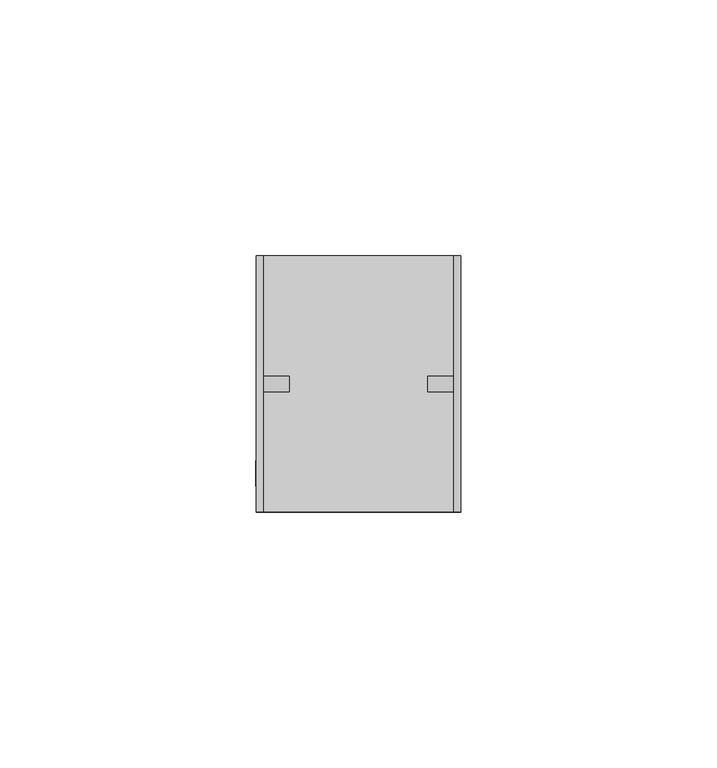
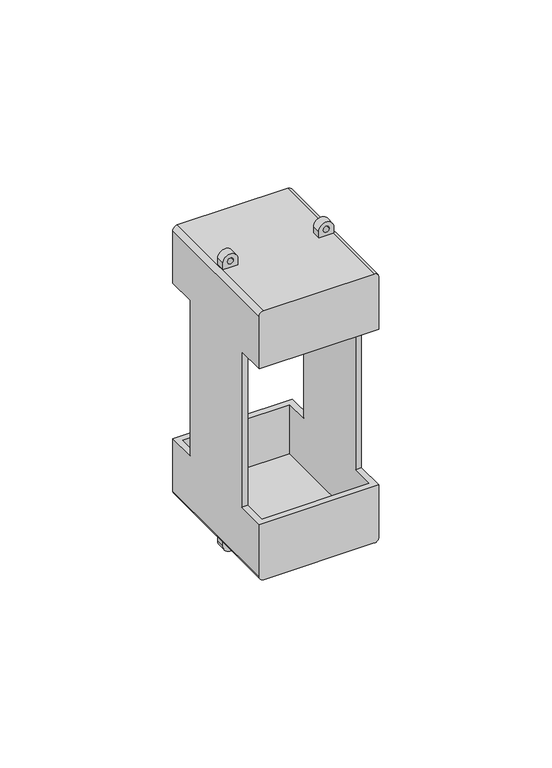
"""IFC4 building model written with IfcOpenShell, lengths in millimetres: proxy geometry, БОМ-1_2 : БОМ 1/2."""

from ifc_helpers import new_model, si_unit, point, frame, frame_2d, origin, place, context, project, spatial, polyline, circle_curve, trimmed, segment, composite_curve, outline, extrude, source, transform, mapped, element, save
from ifc_brep_helpers import plane_surface, cylinder_surface, advanced_brep


def electrical_equipment_e4f36392(model_context):
    return source(origin(), model_context, "Body", "SolidModel", [
        advanced_brep(
        [(18.5143257, 0.0, 95.0), (-18.4856743, 0.0, 95.0), (-19.9856743, 0.0, 93.5), (-19.9856743, 0.0, 75.0), (20.0143257, 0.0, 75.0), (20.0143257, 0.0, 93.5), (-19.9856743, 0.0, 1.5), (-18.4856743, 0.0, 0.0), (18.5143257, 0.0, 0.0), (20.0143257, 0.0, 1.5), (20.0143257, 0.0, 20.0), (-19.9856743, 0.0, 20.0), (18.5143257, 50.0, 95.0), (20.0143257, 50.0, 93.5), (20.0143257, 50.0, 75.0), (-19.9856743, 50.0, 75.0), (-19.9856743, 50.0, 93.5), (-18.4856743, 50.0, 95.0), (20.0143257, 50.0, 1.5), (18.5143257, 50.0, 0.0), (-18.4856743, 50.0, 0.0), (-19.9856743, 50.0, 1.5), (-19.9856743, 50.0, 20.0), (20.0143257, 50.0, 20.0), (18.0, 40.0, 20.0), (20.0, 40.0, 20.0), (-19.9856743, 40.0, 20.0), (-18.0, 40.0, 20.0), (-17.9856743, 48.0, 20.0), (18.0, 48.0, 20.0), (20.0, 10.0, 20.0), (18.0, 10.0, 20.0), (18.0, 2.0, 20.0), (-17.9856743, 2.0, 20.0), (-17.9856743, 10.0, 20.0), (-20.0, 10.0, 20.0), (-18.0, 40.0, 75.0), (-18.0, 48.0, 75.0), (-18.0, 48.0, 92.5250047), (-18.0, 2.0, 92.5250047), (-18.0, 2.0, 75.0), (-18.0, 10.0, 75.0), (-18.0, 2.0, 2.6097156), (-18.0, 48.0, 2.6097156), (-20.0, 40.0, 75.0), (20.0143257, 40.0, 75.0), (18.0, 40.0, 75.0), (18.0, 48.0, 75.0), (-20.0, 10.0, 75.0), (18.0, 2.0, 75.0), (18.0, 10.0, 75.0), (20.0, 10.0, 75.0), (18.0, 48.0, 2.6097156), (18.0, 2.0, 2.6097156), (18.0, 2.0, 92.5250047), (18.0, 48.0, 92.5250047)],
        [
            (0, 1),
            (1, 2, circle_curve(frame((-18.4856743, 0.0, 93.5), z_axis=(0.0, -1.0, 0.0), x_axis=(1.0, 0.0, 0.0)), 1.5)),
            (2, 3),
            (3, 4),
            (4, 5),
            (5, 0, circle_curve(frame((18.5143257, 0.0, 93.5), z_axis=(0.0, -1.0, 0.0), x_axis=(1.0, 0.0, 0.0)), 1.5)),
            (6, 7, circle_curve(frame((-18.4856743, 0.0, 1.5), z_axis=(0.0, -1.0, 0.0), x_axis=(1.0, 0.0, 0.0)), 1.5)),
            (7, 8),
            (8, 9, circle_curve(frame((18.5143257, 0.0, 1.5), z_axis=(0.0, -1.0, 0.0), x_axis=(1.0, 0.0, 0.0)), 1.5)),
            (9, 10),
            (10, 11),
            (11, 6),
            (12, 13, circle_curve(frame((18.5143257, 50.0, 93.5), z_axis=(0.0, 1.0, 0.0), x_axis=(1.0, 0.0, 0.0)), 1.5)),
            (13, 14),
            (14, 15),
            (15, 16),
            (16, 17, circle_curve(frame((-18.4856743, 50.0, 93.5), z_axis=(0.0, 1.0, 0.0), x_axis=(1.0, 0.0, 0.0)), 1.5)),
            (17, 12),
            (18, 19, circle_curve(frame((18.5143257, 50.0, 1.5), z_axis=(0.0, 1.0, 0.0), x_axis=(1.0, 0.0, 0.0)), 1.5)),
            (19, 20),
            (20, 21, circle_curve(frame((-18.4856743, 50.0, 1.5), z_axis=(0.0, 1.0, 0.0), x_axis=(1.0, 0.0, 0.0)), 1.5)),
            (21, 22),
            (22, 23),
            (23, 18),
            (24, 25),
            (25, 23),
            (22, 26),
            (26, 27),
            (27, 28),
            (28, 29),
            (29, 24),
            (30, 31),
            (31, 32),
            (32, 33),
            (33, 34),
            (34, 35),
            (35, 11),
            (10, 30),
            (27, 36),
            (36, 37),
            (37, 38),
            (38, 39),
            (39, 40),
            (40, 41),
            (41, 34),
            (33, 42),
            (42, 43),
            (43, 28),
            (36, 44),
            (44, 15),
            (14, 45),
            (45, 46),
            (46, 47),
            (47, 37),
            (48, 41),
            (40, 49),
            (49, 50),
            (50, 51),
            (51, 4),
            (3, 48),
            (46, 24),
            (29, 52),
            (52, 53),
            (53, 32),
            (31, 50),
            (49, 54),
            (54, 55),
            (55, 47),
            (0, 12),
            (17, 1),
            (16, 2),
            (44, 26),
            (21, 6),
            (35, 48),
            (20, 7),
            (19, 8),
            (18, 9),
            (25, 45),
            (13, 5),
            (51, 30),
            (52, 43),
            (42, 53),
            (54, 39),
            (38, 55),
        ],
        [
            plane_surface(frame((-18.0, 0.0, 20.0), z_axis=(0.0, -1.0, 0.0), x_axis=(-1.0, 0.0, 0.0))),
            plane_surface(frame((-18.0, 50.0, 20.0), z_axis=(0.0, 1.0, 0.0), x_axis=(1.0, 0.0, 0.0))),
            plane_surface(frame((18.0, 0.0, 20.0), z_axis=(0.0, 0.0, 1.0), x_axis=(0.0, 1.0, 0.0))),
            plane_surface(frame((-18.0, 0.0, 20.0), z_axis=(1.0, 0.0, 0.0), x_axis=(0.0, 1.0, 0.0))),
            plane_surface(frame((-18.0, 0.0, 75.0), z_axis=(0.0, 0.0, -1.0), x_axis=(0.0, 1.0, 0.0))),
            plane_surface(frame((18.0, 0.0, 75.0), z_axis=(-1.0, 0.0, 0.0), x_axis=(0.0, 1.0, 0.0))),
            plane_surface(frame((18.5143257, 0.0, 95.0), z_axis=(0.0, 0.0, 1.0), x_axis=(0.0, 1.0, 0.0))),
            cylinder_surface(frame((-18.4856743, 46.0, 93.5), z_axis=(0.0, -1.0, 0.0), x_axis=(1.0, 0.0, 0.0)), 1.5),
            plane_surface(frame((-19.9856743, 0.0, 93.5), z_axis=(-1.0, 0.0, 0.0), x_axis=(0.0, 1.0, 0.0))),
            cylinder_surface(frame((-18.4856743, 46.0, 1.5), z_axis=(0.0, -1.0, 0.0), x_axis=(1.0, 0.0, 0.0)), 1.5),
            plane_surface(frame((-18.4856743, 0.0, 0.0), z_axis=(0.0, 0.0, -1.0), x_axis=(0.0, 1.0, 0.0))),
            cylinder_surface(frame((18.5143257, 46.0, 1.5), z_axis=(0.0, -1.0, 0.0), x_axis=(1.0, 0.0, 0.0)), 1.5),
            plane_surface(frame((20.0143257, 0.0, 1.5), z_axis=(1.0, 0.0, 0.0), x_axis=(0.0, 1.0, 0.0))),
            cylinder_surface(frame((18.5143257, 46.0, 93.5), z_axis=(0.0, -1.0, 0.0), x_axis=(1.0, 0.0, 0.0)), 1.5),
            plane_surface(frame((20.0, 40.0, 75.0), z_axis=(0.0, 1.0, 0.0), x_axis=(-1.0, 0.0, 0.0))),
            plane_surface(frame((20.0, 10.0, 20.0), z_axis=(0.0, -1.0, 0.0), x_axis=(-1.0, 0.0, 0.0))),
            plane_surface(frame((-17.9856743, 48.0, 2.6097156), z_axis=(0.0, 0.0, 1.0), x_axis=(1.0, 0.0, 0.0))),
            plane_surface(frame((18.0, 48.0, 20.0), z_axis=(0.0, -1.0, 0.0), x_axis=(0.0, 0.0, -1.0))),
            plane_surface(frame((-17.9856743, 2.0, 20.0), z_axis=(0.0, 1.0, 0.0), x_axis=(0.0, 0.0, -1.0))),
            plane_surface(frame((-17.9856743, 48.0, 92.5250047), z_axis=(0.0, 0.0, -1.0), x_axis=(-1.0, 0.0, 0.0))),
            plane_surface(frame((18.0, 48.0, 92.5250047), z_axis=(0.0, -1.0, 0.0), x_axis=(0.0, 0.0, -1.0))),
            plane_surface(frame((-17.9856743, 2.0, 92.5250047), z_axis=(0.0, 1.0, 0.0), x_axis=(0.0, 0.0, -1.0))),
        ],
        [
            (0, [[1, 2, 3, 4, 5, 6]]),
            (0, [[7, 8, 9, 10, 11, 12]]),
            (1, [[13, 14, 15, 16, 17, 18]]),
            (1, [[19, 20, 21, 22, 23, 24]]),
            (2, [[25, 26, -23, 27, 28, 29, 30, 31]]),
            (2, [[32, 33, 34, 35, 36, 37, -11, 38]]),
            (3, [[39, 40, 41, 42, 43, 44, 45, -35, 46, 47, 48, -29]]),
            (4, [[49, 50, -15, 51, 52, 53, 54, -40]]),
            (4, [[55, -44, 56, 57, 58, 59, -4, 60]]),
            (5, [[61, -31, 62, 63, 64, -33, 65, -57, 66, 67, 68, -53]]),
            (6, [[-1, 69, -18, 70]]),
            (7, [[-2, -70, -17, 71]]),
            (8, [[-71, -16, -50, 72, -27, -22, 73, -12, -37, 74, -60, -3]]),
            (9, [[-7, -73, -21, 75]]),
            (10, [[-8, -75, -20, 76]]),
            (11, [[-9, -76, -19, 77]]),
            (12, [[-77, -24, -26, 78, -51, -14, 79, -5, -59, 80, -38, -10]]),
            (13, [[-6, -79, -13, -69]]),
            (14, [[-25, -61, -52, -78]]),
            (14, [[-28, -72, -49, -39]]),
            (15, [[-32, -80, -58, -65]]),
            (15, [[-36, -45, -55, -74]]),
            (16, [[81, -47, 82, -63]]),
            (17, [[-81, -62, -30, -48]]),
            (18, [[-82, -46, -34, -64]]),
            (19, [[-67, 83, -42, 84]]),
            (20, [[-84, -41, -54, -68]]),
            (21, [[-83, -66, -56, -43]]),
        ],
    ),
        extrude(outline(composite_curve([segment(trimmed(circle_curve(frame_2d((97.5, 16.0143257)), 2.5), [point((97.5, 18.5143257))], [point((97.5, 13.5143257))], False, "CARTESIAN"), True, "CONTINUOUS"), segment(polyline([(97.5, 13.5143257), (95.0, 13.5143257), (95.0, 18.5143257), (97.5, 18.5143257)]), True, "CONTINUOUS")], self_intersect=False), holes=[composite_curve([segment(trimmed(circle_curve(frame_2d((97.5, 16.0143257)), 1.0), [point((97.5, 15.0143257))], [point((97.5, 17.0143257))], True, "CARTESIAN"), True, "CONTINUOUS"), segment(trimmed(circle_curve(frame_2d((97.5, 16.0143257)), 1.0), [point((97.5, 17.0143257))], [point((97.5, 15.0143257))], True, "CARTESIAN"), True, "CONTINUOUS")], self_intersect=False)]), frame((0.0, 23.5, 0.0), z_axis=(0.0, 1.0, 0.0), x_axis=(0.0, 0.0, 1.0)), (0.0, 0.0, 1.0), 3.0),
        extrude(outline(composite_curve([segment(polyline([(97.5, -18.5143257), (95.0, -18.5143257), (95.0, -13.5143257), (97.5, -13.5143257)]), True, "CONTINUOUS"), segment(trimmed(circle_curve(frame_2d((97.5, -16.0143257)), 2.5), [point((97.5, -13.5143257))], [point((97.5, -18.5143257))], False, "CARTESIAN"), True, "CONTINUOUS")], self_intersect=False), holes=[composite_curve([segment(trimmed(circle_curve(frame_2d((97.5, -16.0143257)), 1.0), [point((97.5, -17.0143257))], [point((97.5, -15.0143257))], True, "CARTESIAN"), True, "CONTINUOUS"), segment(trimmed(circle_curve(frame_2d((97.5, -16.0143257)), 1.0), [point((97.5, -15.0143257))], [point((97.5, -17.0143257))], True, "CARTESIAN"), True, "CONTINUOUS")], self_intersect=False)]), frame((0.0, 23.5, 0.0), z_axis=(0.0, 1.0, 0.0), x_axis=(0.0, 0.0, 1.0)), (0.0, 0.0, 1.0), 3.0),
        extrude(outline(composite_curve([segment(polyline([(-2.5, 18.5143257), (0.0, 18.5143257), (0.0, 13.5143257), (-2.5, 13.5143257)]), True, "CONTINUOUS"), segment(trimmed(circle_curve(frame_2d((-2.5, 16.0143257)), 2.5), [point((-2.5, 13.5143257))], [point((-2.5, 18.5143257))], False, "CARTESIAN"), True, "CONTINUOUS")], self_intersect=False), holes=[composite_curve([segment(trimmed(circle_curve(frame_2d((-2.5, 16.0143257)), 1.0), [point((-2.5, 15.0143257))], [point((-2.5, 17.0143257))], True, "CARTESIAN"), True, "CONTINUOUS"), segment(trimmed(circle_curve(frame_2d((-2.5, 16.0143257)), 1.0), [point((-2.5, 17.0143257))], [point((-2.5, 15.0143257))], True, "CARTESIAN"), True, "CONTINUOUS")], self_intersect=False)]), frame((0.0, 23.5, 0.0), z_axis=(0.0, 1.0, 0.0), x_axis=(0.0, 0.0, 1.0)), (0.0, 0.0, 1.0), 3.0),
        extrude(outline(composite_curve([segment(trimmed(circle_curve(frame_2d((-2.5, -16.0143257)), 2.5), [point((-2.5, -18.5143257))], [point((-2.5, -13.5143257))], False, "CARTESIAN"), True, "CONTINUOUS"), segment(polyline([(-2.5, -13.5143257), (0.0, -13.5143257), (0.0, -18.5143257), (-2.5, -18.5143257)]), True, "CONTINUOUS")], self_intersect=False), holes=[composite_curve([segment(trimmed(circle_curve(frame_2d((-2.5, -16.0143257)), 1.0), [point((-2.5, -17.0143257))], [point((-2.5, -15.0143257))], True, "CARTESIAN"), True, "CONTINUOUS"), segment(trimmed(circle_curve(frame_2d((-2.5, -16.0143257)), 1.0), [point((-2.5, -15.0143257))], [point((-2.5, -17.0143257))], True, "CARTESIAN"), True, "CONTINUOUS")], self_intersect=False)]), frame((0.0, 23.5, 0.0), z_axis=(0.0, 1.0, 0.0), x_axis=(0.0, 0.0, 1.0)), (0.0, 0.0, 1.0), 3.0),
    ])


if __name__ == "__main__":
    model = new_model("IFC4")
    model_context = context("Model", 3, world=origin())
    ifc_project = project(units=[si_unit("LENGTHUNIT", "METRE", prefix="MILLI")], contexts=[model_context])
    site = spatial("IfcSite", under=ifc_project)
    building = spatial("IfcBuilding", under=site)
    placement = place(None, origin())
    electrical_equipment_shape = electrical_equipment_e4f36392(model_context)
    element("IfcBuildingElementProxy", 1, Name="БОМ-1_2 : БОМ 1/2", ObjectType="БОМ-1_2 : БОМ 1/2", at=placement, inside=building, context=model_context, shape_type="MappedRepresentation", body=[
        mapped(electrical_equipment_shape, transform((0.0, 0.0, 0.0), x_axis=(1.0, 0.0, 0.0), y_axis=(0.0, 1.0, 0.0), z_axis=(0.0, 0.0, 1.0))),
    ])
    save(model, "model.ifc")
